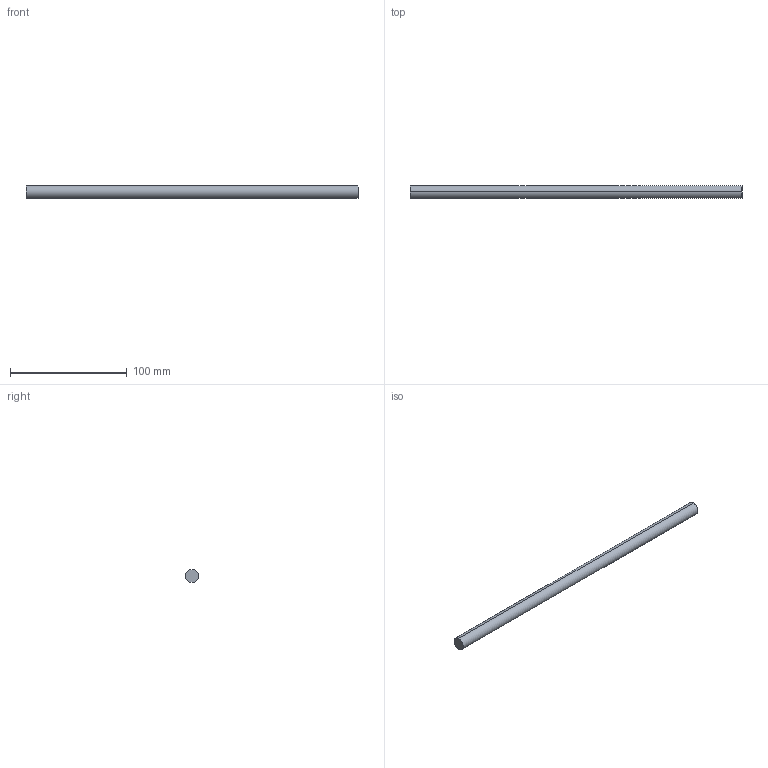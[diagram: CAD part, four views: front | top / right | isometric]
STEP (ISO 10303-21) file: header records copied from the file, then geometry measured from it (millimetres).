
FILE_DESCRIPTION (( 'STEP AP214' ), '1' );
FILE_NAME ('Querreling_Frontblende_Innenlade_KS-19_25mm-Halter_KAB-400.step', '2010-09-22T15:05:44', ( 'grass' ), ( '' ), 'SwSTEP 2.0', 'SolidWorks 2010', '' );
FILE_SCHEMA (( 'AUTOMOTIVE_DESIGN' ));
Length unit declared in the file: millimetre
Products named in the file (1): Querreling_Frontblende_Innenlade_KS-19_25mm-Halter_KAB-400
Bounding box: 284 x 11 x 11 mm (x, y, z)
Volume: 26989.4 mm3; surface area: 10004.4 mm2
Topology: 1 solids, 1 shells, 4 faces, 6 edges, 4 vertices
Faces by surface type: cylinder 2, plane 2
Entity records: 128 total; most frequent: DIRECTION 20, CARTESIAN_POINT 15, ORIENTED_EDGE 12, AXIS2_PLACEMENT_3D 9, EDGE_CURVE 6, EDGE_LOOP 4, FACE_OUTER_BOUND 4, CIRCLE 4
